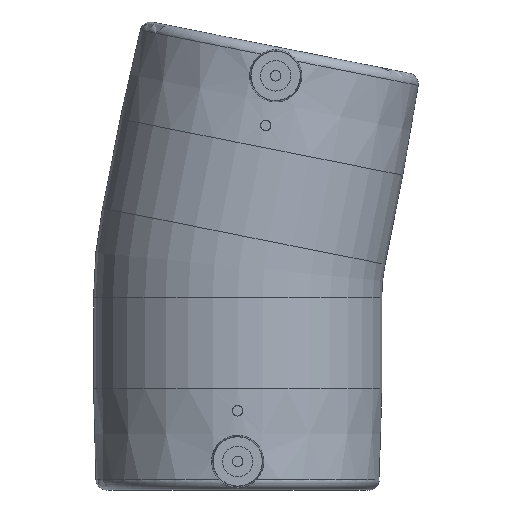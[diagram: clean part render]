
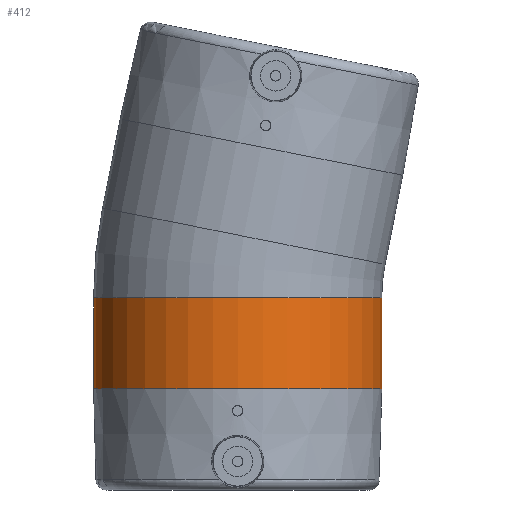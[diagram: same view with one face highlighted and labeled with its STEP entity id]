
A CAD part, front view. The second image highlights one B-rep face of the part: STEP entity #412.
In plain terms, the highlighted cylindrical face has radius 55.5 mm (diameter 111 mm), a full revolution.
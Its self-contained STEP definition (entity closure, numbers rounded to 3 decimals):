
#51=CYLINDRICAL_SURFACE('',#481,55.5);
#113=ORIENTED_EDGE('',*,*,#176,.F.);
#114=ORIENTED_EDGE('',*,*,#174,.F.);
#174=EDGE_CURVE('',#217,#217,#247,.T.);
#176=EDGE_CURVE('',#219,#219,#249,.F.);
#217=VERTEX_POINT('',#755);
#219=VERTEX_POINT('',#761);
#247=CIRCLE('',#478,55.5);
#249=CIRCLE('',#482,55.5);
#292=EDGE_LOOP('',(#113));
#293=EDGE_LOOP('',(#114));
#353=FACE_BOUND('',#292,.T.);
#354=FACE_BOUND('',#293,.T.);
#412=ADVANCED_FACE('',(#353,#354),#51,.T.);
#478=AXIS2_PLACEMENT_3D('',#754,#586,#587);
#481=AXIS2_PLACEMENT_3D('',#759,#592,#593);
#482=AXIS2_PLACEMENT_3D('',#760,#594,#595);
#586=DIRECTION('',(0.,0.,-1.));
#587=DIRECTION('',(-1.,0.,0.));
#592=DIRECTION('',(0.,0.,1.));
#593=DIRECTION('',(1.,0.,0.));
#594=DIRECTION('',(0.,0.,-1.));
#595=DIRECTION('',(1.,0.,0.));
#754=CARTESIAN_POINT('',(0.,0.,-47.));
#755=CARTESIAN_POINT('',(-55.5,0.,-47.));
#759=CARTESIAN_POINT('',(0.,0.,-86.));
#760=CARTESIAN_POINT('',(0.,0.,-12.));
#761=CARTESIAN_POINT('',(55.5,0.,-12.));
